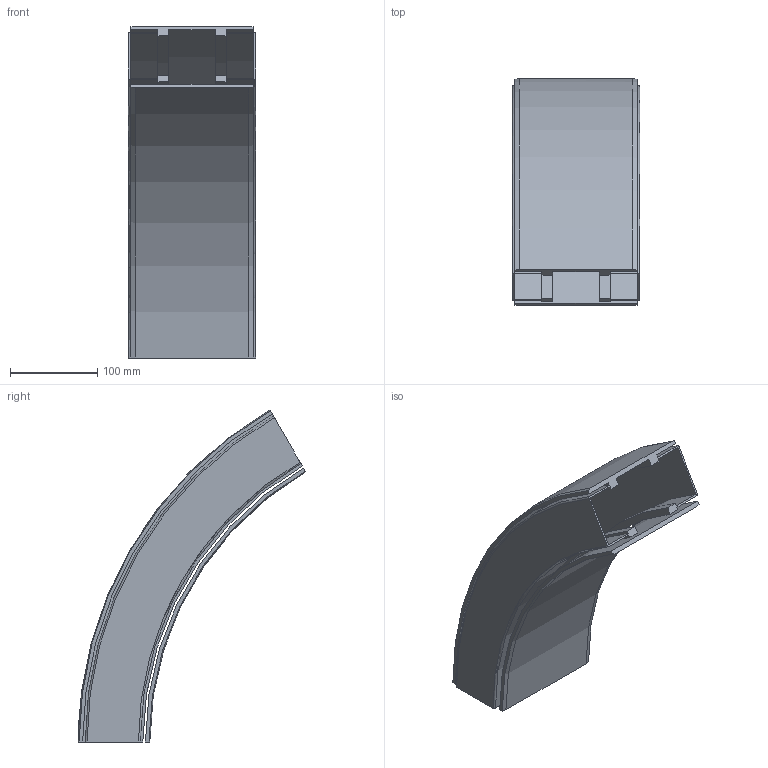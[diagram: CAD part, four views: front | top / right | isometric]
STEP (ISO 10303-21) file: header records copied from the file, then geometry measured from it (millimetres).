
FILE_DESCRIPTION((''),'2;1');
FILE_NAME('C:\Vault Klient\Projekt\Koncept konstruktion\Serie 540 Balk\540-5630_DOWN.stp','2010-11-25T11:18:22',('Mathias'),(''),'Autodesk Inventor 2011','Autodesk Inventor 2011','');
FILE_SCHEMA(('AUTOMOTIVE_DESIGN { 1 0 10303 214 1 1 1 1 }'));
Length unit declared in the file: millimetre
Products named in the file (1): 540-5630_DOWN
Bounding box: 146 x 260.75 x 380.62 mm (x, y, z)
Volume: 958867.4 mm3; surface area: 499077.9 mm2
Topology: 2 solids, 2 shells, 87 faces, 234 edges, 156 vertices
Faces by surface type: plane 38, cylinder 25, bspline 14, cone 6, torus 4
Entity records: 3147 total; most frequent: CARTESIAN_POINT 909, ORIENTED_EDGE 468, DIRECTION 428, EDGE_CURVE 234, VERTEX_POINT 156, AXIS2_PLACEMENT_3D 148, VECTOR 132, LINE 132
